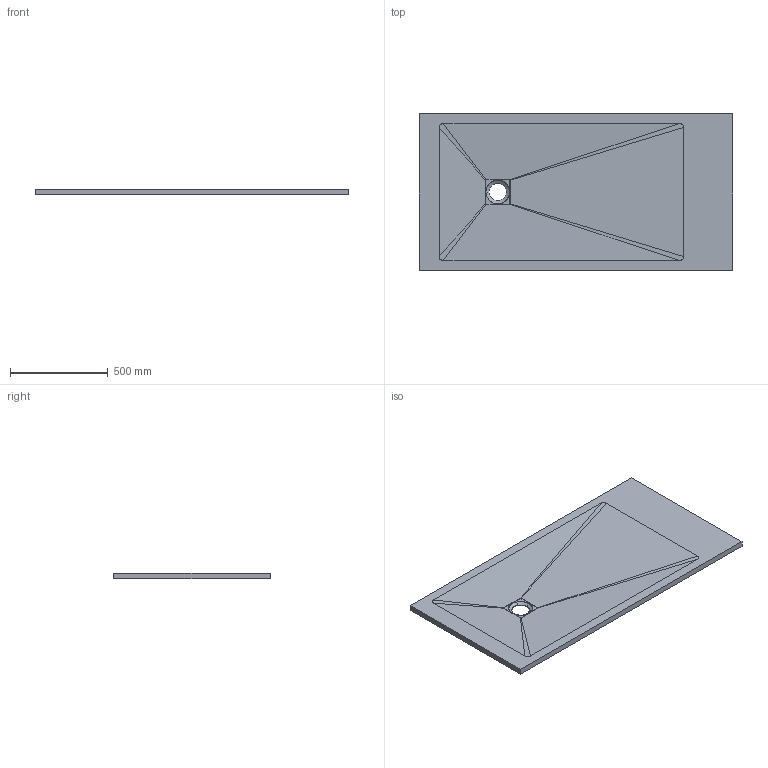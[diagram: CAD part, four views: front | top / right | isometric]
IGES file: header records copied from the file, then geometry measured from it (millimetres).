
Global section: file name: C:\Users\Utente; native system: Rhinoceros ( Aug 11 2021 ); preprocessor: Trout Lake IGES 012 Aug 11 2021; date: 220621.055943; units: millimetre
Bounding box: 1600 x 800 x 30.04 mm (x, y, z)
Surface area: 2908767.1 mm2 (no closed solid volume)
Topology: 0 solids, 0 shells, 620 faces, 6454 edges, 6359 vertices
Faces by surface type: bspline 620
